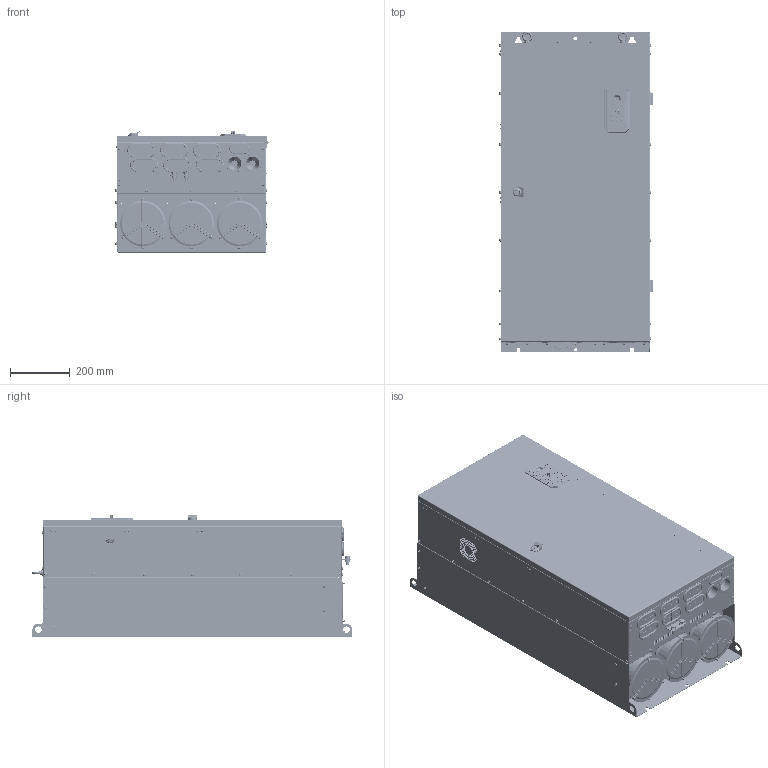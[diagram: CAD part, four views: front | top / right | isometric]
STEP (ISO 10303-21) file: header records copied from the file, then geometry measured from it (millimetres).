
FILE_DESCRIPTION((''),'2;1');
FILE_NAME('AD800-D8-DRIVE_ASM','2025-06-25T14:06:19',('wendong.luo'),(''),'CREO PARAMETRIC BY PTC INC, 2024374','CREO PARAMETRIC BY PTC INC, 2024374','');
FILE_SCHEMA(('CONFIG_CONTROL_DESIGN','GEOMETRIC_VALIDATION_PROPERTIES_MIM'));
Products named in the file (75): D8-MECHANICAL-PART; PRT0001_7; 17251-5YE-2B_1; 17251_ASM_ASM; M0200005; M0204014; M0204033; M0104030; M0204023-40-85; M0202034; M0100015; M0202003; M0202014; M12-25; M0202068; M0202067; M0202037_ASM; M0202007; M10-25; M10-SPRING_FLAT; M10-WASHER; M0202036_ASM; M0202055; M0202054; P_FHS_5_12_; RIVETING-NUT-4_; M0202002; M3-SPRING_FLAT; M3-WASHER; M0202002_ASM; M0202040; P_FHS_8_15; FASTEN_D8_ASM; D8-PU_ASM; M0104033; E0100084; E0400023; E0400008; E0400009; E0400001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
Assembly tree (260 placements, depth 5):
  AD800-D8-DRIVE_ASM
    D8-PU_ASM
      D8-MECHANICAL-PART
      17251_ASM_ASM  x3
        PRT0001_7
        17251-5YE-2B_1
      M0200005  x3
      M0204014  x3
      M0204033
      M0104030
      M0204023-40-85  x6
      FASTEN_D8_ASM
        M0202034  x37
        M0100015  x2
        M0202003  x8
        M0202014
        M0202037_ASM  x14
          M12-25
          M0202068
          M0202067
        M0202007  x48
        M0202036_ASM  x2
          M10-25
          M10-SPRING_FLAT
          M10-WASHER
        M0202055  x2
        M0202054  x2
        P_FHS_5_12_  x10
        RIVETING-NUT-4_  x10
        M0202002_ASM  x2
          M0202002
          M3-SPRING_FLAT
          M3-WASHER
        M0202040  x12
        P_FHS_8_15  x24
    CU_NEW_ASM
      M0104033
      E0100084_ASM
        E0100084
        E0400023
        E0400008
        E0400009  x2
        E0400001
        E0400011
      M0203006
      M0203025
      M0203032_00
    D8-DOOR-ASM_ASM
      M0100085_ASM
        M0100085
        M0100059-D8
        LOCATING-PIN-4_  x2
        EM-S-M5-ZC  x4
      M0104027
      EXTERNAL_KEYPAD_ASM
        M0104016
        M0104018
        E0100102_ASM
          E0100102
          E0200191
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Bounding box: 512.2 x 1072.9 x 409 mm (x, y, z)
Volume: 7771070.7 mm3; surface area: 7833203 mm2
Topology: 466 solids, 590 shells, 39204 faces, 102552 edges, 65631 vertices
Faces by surface type: plane 18234, cylinder 9990, bspline 5109, extrusion 2301, cone 1700, torus 1557, sphere 313
Entity records: 778186 total; most frequent: CARTESIAN_POINT 208440, ORIENTED_EDGE 96140, DIRECTION 81706, EDGE_CURVE 48273, PRESENTATION_STYLE_ASSIGNMENT 34111, STYLED_ITEM 32509, VECTOR 31624, VERTEX_POINT 31558
